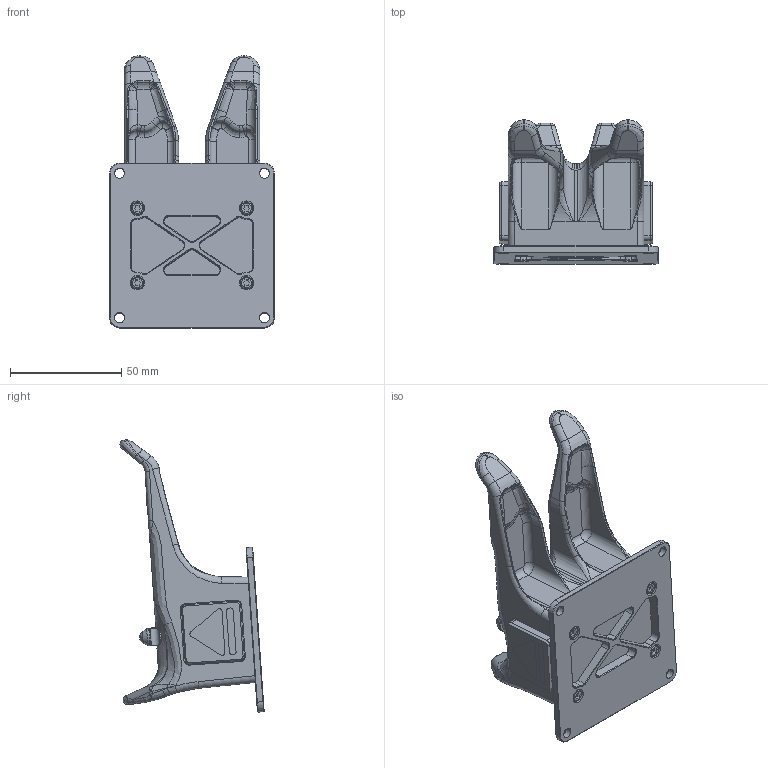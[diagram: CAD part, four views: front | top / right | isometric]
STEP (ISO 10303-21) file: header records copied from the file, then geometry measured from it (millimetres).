
FILE_DESCRIPTION (( 'STEP AP203' ), '1' );
FILE_NAME ('002-9480-2 - CRADLE.STEP', '2025-12-09T00:45:52', ( '' ), ( '' ), 'SwSTEP 2.0', 'SolidWorks 2025', '' );
FILE_SCHEMA (( 'CONFIG_CONTROL_DESIGN' ));
Length unit declared in the file: millimetre
Products named in the file (2): 012-0006-ICD-V27; 002-9480-2 - CRADLE
Assembly tree (1 placements, depth 2):
  002-9480-2 - CRADLE
    012-0006-ICD-V27
Bounding box: 74 x 64.72 x 122.18 mm (x, y, z)
Volume: 101478.2 mm3; surface area: 67966 mm2
Topology: 16 solids, 16 shells, 1429 faces, 4207 edges, 2895 vertices
Faces by surface type: plane 529, cylinder 388, bspline 271, cone 125, torus 104, sphere 12
Entity records: 86637 total; most frequent: CARTESIAN_POINT 50257, ORIENTED_EDGE 8276, DIRECTION 6661, EDGE_CURVE 4138, VERTEX_POINT 2884, AXIS2_PLACEMENT_3D 2310, VECTOR 2041, LINE 2041
